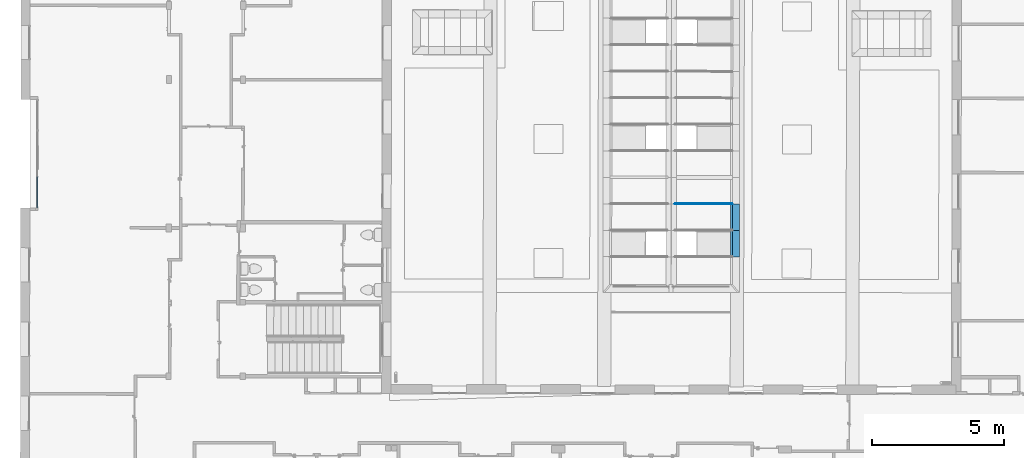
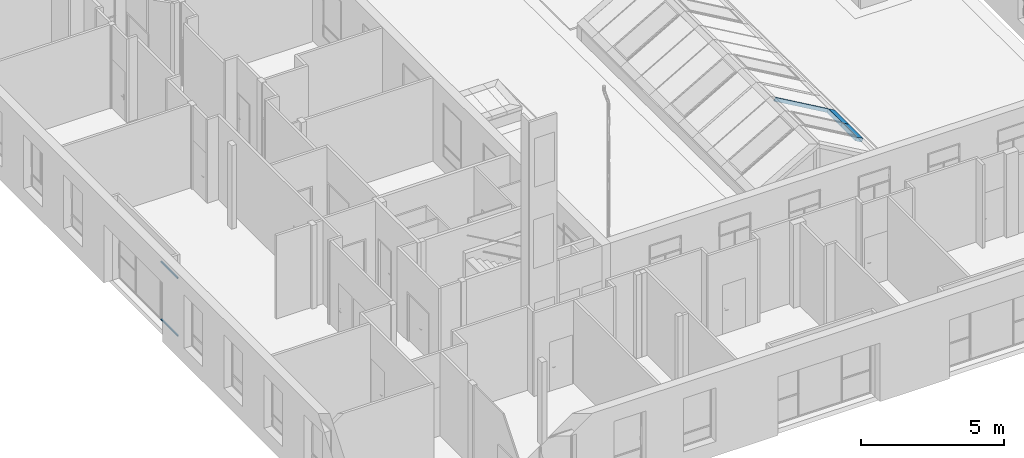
# One storey, part 7 of 101: 5 members, 2 elements without a shape of their own.
"""IFC2X3 building model written with IfcOpenShell, lengths in metres."""

from ifc_helpers import new_model, entity, si_unit, converted_unit, derived_unit, direction, frame, frame_2d, origin, origin_2d_with_axis, place, context, subcontext, project, spatial, rectangle, extrude, source, transform, mapped, material, type_object, type_shapes, element, aggregate, save


model = new_model("IFC2X3")

# Units and contexts
model_context = context("Model", 3, precision=1e-05, world=origin(), true_north=direction((6.123233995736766e-17, 1.0)))
body_context = subcontext(model_context, "Body", "Model", "MODEL_VIEW")
ifc_project = project(units=[si_unit("LENGTHUNIT", "METRE"), si_unit("AREAUNIT", "SQUARE_METRE"), converted_unit("PLANEANGLEUNIT", "DEGREE", entity("IfcPlaneAngleMeasure", 0.017453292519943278), si_unit("PLANEANGLEUNIT", "RADIAN"), dimensions=[0, 0, 0, 0, 0, 0, 0]), derived_unit("THERMALTRANSMITTANCEUNIT", [(si_unit("MASSUNIT", "GRAM", prefix="KILO"), 1), (si_unit("THERMODYNAMICTEMPERATUREUNIT", "KELVIN"), -1), (si_unit("TIMEUNIT", "SECOND"), -3)])], contexts=[model_context])

# Site, building, storey
site_placement = place(None, frame((1253.6752467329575, 2072.143113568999, 91.49999999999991), z_axis=(0.0, 0.0, 1.0), x_axis=(0.7237211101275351, 0.6900925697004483, 0.0)))
site = spatial("IfcSite", under=ifc_project, at=site_placement, Name="Surface", CompositionType="ELEMENT")
building_placement = place(site_placement, origin())
building = spatial("IfcBuilding", under=site, at=building_placement, CompositionType="ELEMENT")
storey_placement = place(building_placement, origin())
storey = spatial("IfcBuildingStorey", under=building, at=storey_placement, Name="0- Rdc", CompositionType="ELEMENT", Elevation=-5.764692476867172e-13)

# Curtain wall, members
curtain_wall_type_1 = type_object("IfcCurtainWallType", Name="Mur-rideau:Menuiserie Ext 1F+1OB VERTIC", PredefinedType="NOTDEFINED")
curtain_wall_placement = place(storey_placement, origin())
curtain_wall = element("IfcCurtainWall", 1, at=curtain_wall_placement, inside=storey, type_object=curtain_wall_type_1, Name="Mur-rideau:Menuiserie Ext 1F+1OB VERTIC", ObjectType="Mur-rideau:Menuiserie Ext 1F+1OB VERTIC")
ifc_material_1 = material(Name="OMD_Aluminium Men Ext")
member_type_1 = type_object("IfcMemberType", Name="Meneau rectangulaire:50x50", PredefinedType="MULLION", material=ifc_material_1)
shared_shape_1 = source(origin(), body_context, "Body", "SweptSolid", [
    extrude(rectangle(XDim=0.05, YDim=0.049999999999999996, at=origin_2d_with_axis()), frame((-0.025, 0.0, -1.1799999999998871), z_axis=(0.0, 0.0, 1.0), x_axis=(-1.0, 0.0, 0.0)), (0.0, 0.0, 1.0), 1.1799999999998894),
])
type_shapes(member_type_1, [shared_shape_1])
member_1_placement = place(curtain_wall_placement, frame((155.01036704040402, 15.140623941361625, 2.4999999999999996), z_axis=(-0.6909838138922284, -0.7228702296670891, 0.0), x_axis=(0.0, 0.0, 1.0)))
member_1 = element("IfcMember", 2, at=member_1_placement, type_object=member_type_1, material=ifc_material_1, Name="Meneau rectangulaire:50x50", ObjectType="Meneau rectangulaire:50x50", context=body_context, shape_type="MappedRepresentation", body=[
    mapped(shared_shape_1, transform((0.0, 0.0, 0.0), scale=1.0)),
])
member_type_2 = type_object("IfcMemberType", Name="Meneau rectangulaire:50x50", PredefinedType="MULLION", material=ifc_material_1)
shared_shape_2 = source(origin(), body_context, "Body", "SweptSolid", [
    extrude(rectangle(XDim=0.05, YDim=0.05000000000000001, at=origin_2d_with_axis()), frame((-0.025, 0.0, -1.1799999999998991), z_axis=(0.0, 0.0, 1.0), x_axis=(-1.0, 0.0, 0.0)), (0.0, 0.0, 1.0), 1.1799999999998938),
])
type_shapes(member_type_2, [shared_shape_2])
member_2_placement = place(curtain_wall_placement, frame((155.82572794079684, 15.993610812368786, 0.0), z_axis=(0.6909838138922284, 0.7228702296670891, 0.0), x_axis=(0.0, 0.0, -1.0)))
member_2 = element("IfcMember", 3, at=member_2_placement, type_object=member_type_2, material=ifc_material_1, Name="Meneau rectangulaire:50x50", ObjectType="Meneau rectangulaire:50x50", context=body_context, shape_type="MappedRepresentation", body=[
    mapped(shared_shape_2, transform((0.0, 0.0, 0.0), scale=1.0)),
])
aggregate(curtain_wall, [member_1, member_2])

# Roof, members
curtain_wall_type_2 = type_object("IfcCurtainWallType", Name="Vitres inclinées:Toit en verre 1 m x 2 m", PredefinedType="NOTDEFINED")
roof_placement = place(storey_placement, origin())
roof = element("IfcRoof", 4, at=roof_placement, inside=storey, type_object=curtain_wall_type_2, Name="Vitres inclinées:Toit en verre 1 m x 2 m", ObjectType="Vitres inclinées:Toit en verre 1 m x 2 m", ShapeType="NOTDEFINED")
ifc_material_2 = material(Name="OMD_Aluminium blanc")
member_type_3 = type_object("IfcMemberType", Name="Meneau rectangulaire:22x300", PredefinedType="MULLION", material=ifc_material_2)
shared_shape_3 = source(origin(), body_context, "Body", "SweptSolid", [
    extrude(rectangle(XDim=0.29999999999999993, YDim=0.14999999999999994, at=frame_2d((-1.3877787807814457e-17, 0.0), x_axis=(1.0, 0.0))), frame((-0.1499999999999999, 0.06499999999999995, -1.0), z_axis=(0.0, 0.0, 1.0), x_axis=(-1.0, 0.0, 0.0)), (0.0, 0.0, 1.0), 1.0000000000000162),
])
type_shapes(member_type_3, [shared_shape_3])
member_3_placement = place(roof_placement, frame((174.30098955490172, -3.045384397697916, 0.24589942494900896), z_axis=(0.6909838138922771, 0.7228702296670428, 0.0), x_axis=(0.6260239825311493, -0.5984095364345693, -0.5000000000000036)))
member_3 = element("IfcMember", 5, at=member_3_placement, type_object=member_type_3, material=ifc_material_2, Name="Meneau rectangulaire:22x300", ObjectType="Meneau rectangulaire:22x300", context=body_context, shape_type="MappedRepresentation", body=[
    mapped(shared_shape_3, transform((0.0, 0.0, 0.0), scale=1.0)),
])
member_4_placement = place(roof_placement, frame((173.61000574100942, -3.7682546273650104, 0.24589942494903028), z_axis=(0.6909838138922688, 0.7228702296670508, 0.0), x_axis=(0.6260239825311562, -0.5984095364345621, -0.5000000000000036)))
member_4 = element("IfcMember", 6, at=member_4_placement, type_object=member_type_3, material=ifc_material_2, Name="Meneau rectangulaire:22x300", ObjectType="Meneau rectangulaire:22x300", context=body_context, shape_type="MappedRepresentation", body=[
    mapped(shared_shape_3, transform((0.0, 0.0, 0.0), scale=1.0)),
])
member_type_4 = type_object("IfcMemberType", Name="Meneau rectangulaire:37.5x150", PredefinedType="MULLION", material=ifc_material_2)
shared_shape_4 = source(origin(), body_context, "Body", "SweptSolid", [
    extrude(rectangle(XDim=0.0376, YDim=0.15, at=origin_2d_with_axis()), frame((0.0, 0.06499999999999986, -2.4520484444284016), z_axis=(0.0, 0.0, 1.0), x_axis=(-1.0, 0.0, 0.0)), (0.0, 0.0, 1.0), 2.452048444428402),
])
type_shapes(member_type_4, [shared_shape_4])
member_5_placement = place(roof_placement, frame((172.57814122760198, -1.398532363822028, 1.6219236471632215), z_axis=(-0.6260239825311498, 0.5984095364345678, 0.5000000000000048), x_axis=(0.690983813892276, 0.722870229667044, 0.0)))
member_5 = element("IfcMember", 7, at=member_5_placement, type_object=member_type_4, material=ifc_material_2, Name="Meneau rectangulaire:37.5x150", ObjectType="Meneau rectangulaire:37.5x150", context=body_context, shape_type="MappedRepresentation", body=[
    mapped(shared_shape_4, transform((0.0, 0.0, 0.0), scale=1.0)),
])
aggregate(roof, [member_3, member_5, member_4])

save(model, "model.ifc")
